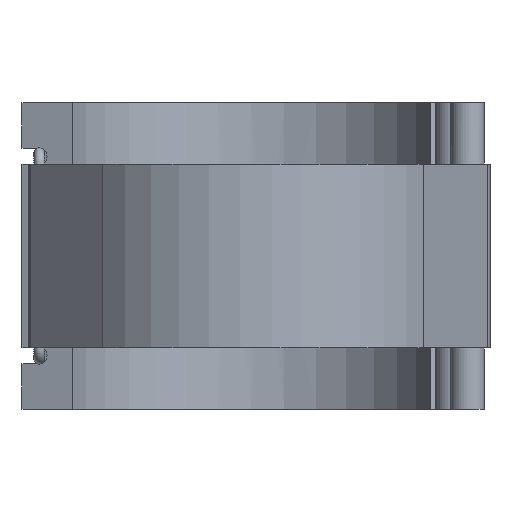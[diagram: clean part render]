
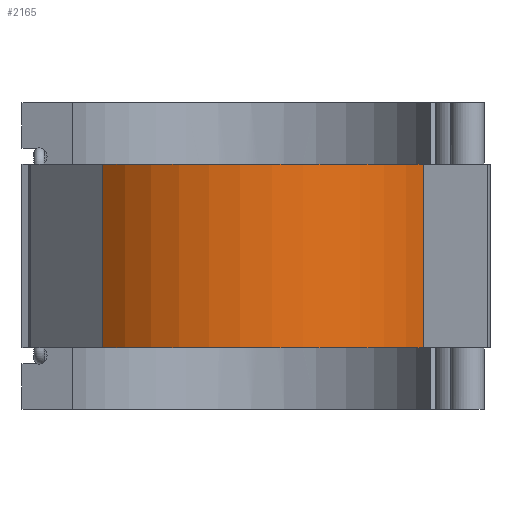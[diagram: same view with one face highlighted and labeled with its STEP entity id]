
A CAD part, front view. The second image highlights one B-rep face of the part: STEP entity #2165.
In plain terms, the highlighted cylindrical face has radius 112.63 mm (diameter 225.261 mm), a partial arc.
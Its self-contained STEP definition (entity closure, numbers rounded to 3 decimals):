
#242=LINE('',#3887,#422);
#243=LINE('',#3889,#423);
#422=VECTOR('',#2987,10.);
#423=VECTOR('',#2990,10.);
#463=CYLINDRICAL_SURFACE('',#2402,112.631);
#569=FACE_OUTER_BOUND('',#702,.T.);
#702=EDGE_LOOP('',(#1870,#1871,#1872,#1873));
#795=CIRCLE('',#2317,112.631);
#804=CIRCLE('',#2327,112.631);
#940=VERTEX_POINT('',#3605);
#941=VERTEX_POINT('',#3607);
#956=VERTEX_POINT('',#3639);
#957=VERTEX_POINT('',#3641);
#1188=EDGE_CURVE('',#940,#941,#795,.T.);
#1205=EDGE_CURVE('',#956,#957,#804,.T.);
#1325=EDGE_CURVE('',#940,#957,#242,.T.);
#1326=EDGE_CURVE('',#941,#956,#243,.T.);
#1870=ORIENTED_EDGE('',*,*,#1325,.T.);
#1871=ORIENTED_EDGE('',*,*,#1205,.F.);
#1872=ORIENTED_EDGE('',*,*,#1326,.F.);
#1873=ORIENTED_EDGE('',*,*,#1188,.F.);
#2165=ADVANCED_FACE('',(#569),#463,.T.);
#2317=AXIS2_PLACEMENT_3D('',#3608,#2728,#2729);
#2327=AXIS2_PLACEMENT_3D('',#3642,#2756,#2757);
#2402=AXIS2_PLACEMENT_3D('',#3888,#2988,#2989);
#2728=DIRECTION('center_axis',(0.,0.,-1.));
#2729=DIRECTION('ref_axis',(0.989,0.151,0.));
#2756=DIRECTION('center_axis',(0.,0.,1.));
#2757=DIRECTION('ref_axis',(0.989,0.151,0.));
#2987=DIRECTION('',(0.,0.,1.));
#2988=DIRECTION('center_axis',(0.,0.,1.));
#2989=DIRECTION('ref_axis',(0.989,0.151,0.));
#2990=DIRECTION('',(0.,0.,1.));
#3605=CARTESIAN_POINT('',(98.697,-54.264,-52.807));
#3607=CARTESIAN_POINT('',(-85.183,-73.685,-52.807));
#3608=CARTESIAN_POINT('Origin',(0.,0.,-52.807));
#3639=CARTESIAN_POINT('',(-85.183,-73.685,52.807));
#3641=CARTESIAN_POINT('',(98.697,-54.264,52.807));
#3642=CARTESIAN_POINT('Origin',(0.,0.,52.807));
#3887=CARTESIAN_POINT('',(98.697,-54.264,0.));
#3888=CARTESIAN_POINT('Origin',(0.,0.,0.));
#3889=CARTESIAN_POINT('',(-85.183,-73.685,0.));
